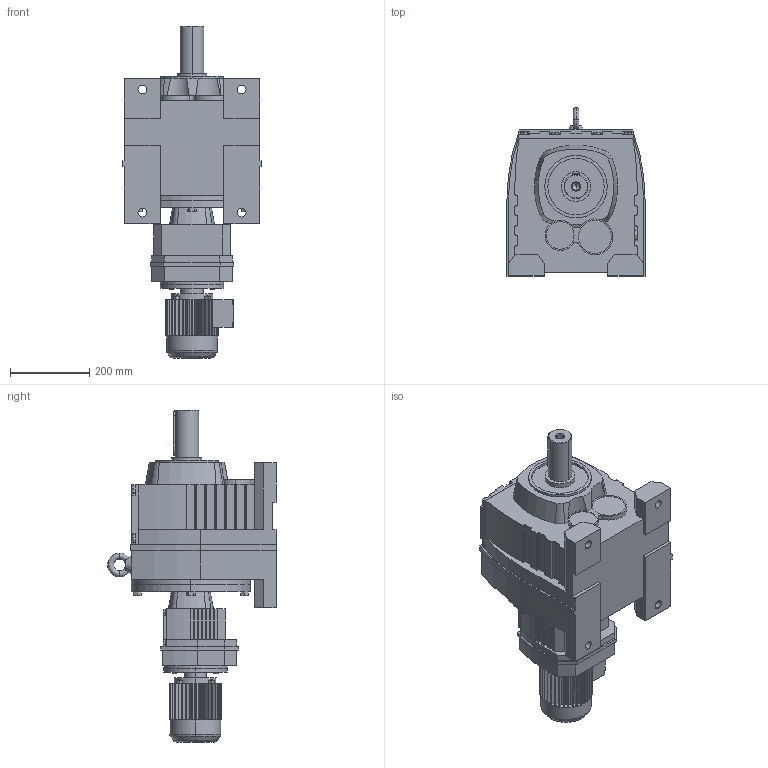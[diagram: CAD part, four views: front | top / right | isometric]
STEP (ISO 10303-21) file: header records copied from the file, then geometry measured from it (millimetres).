
FILE_DESCRIPTION(('Open CASCADE Model'),'2;1');
FILE_NAME('Open CASCADE Shape Model','2021-07-24T14:34:49',('Author'),( 'Open CASCADE'),'Open CASCADE STEP processor 6.3','Open CASCADE 6.3' ,'Unknown');
FILE_SCHEMA(('AUTOMOTIVE_DESIGN_CC2 { 1 2 10303 214 -1 1 5 4 }'));
Length unit declared in the file: millimetre
Products named in the file (4): 1_R97R57DR63; R37‵167_R97R57.step; 萇儂_160-DR63-185-240-132-105.step; R_97_57.step
Assembly tree (3 placements, depth 2):
  1_R97R57DR63
    R37‵167_R97R57.step
    萇儂_160-DR63-185-240-132-105.step
    R_97_57.step
Bounding box: 348 x 424 x 836 mm (x, y, z)
Volume: 40338280.3 mm3; surface area: 1321592.6 mm2
Topology: 3 solids, 3 shells, 975 faces, 2605 edges, 1696 vertices
Faces by surface type: plane 719, cylinder 218, cone 28, torus 10
Entity records: 67498 total; most frequent: CARTESIAN_POINT 17231, DIRECTION 8861, LINE 5290, VECTOR 5290, ORIENTED_EDGE 5206, PCURVE 5206, DEFINITIONAL_REPRESENTATION 5206, EDGE_CURVE 2603
